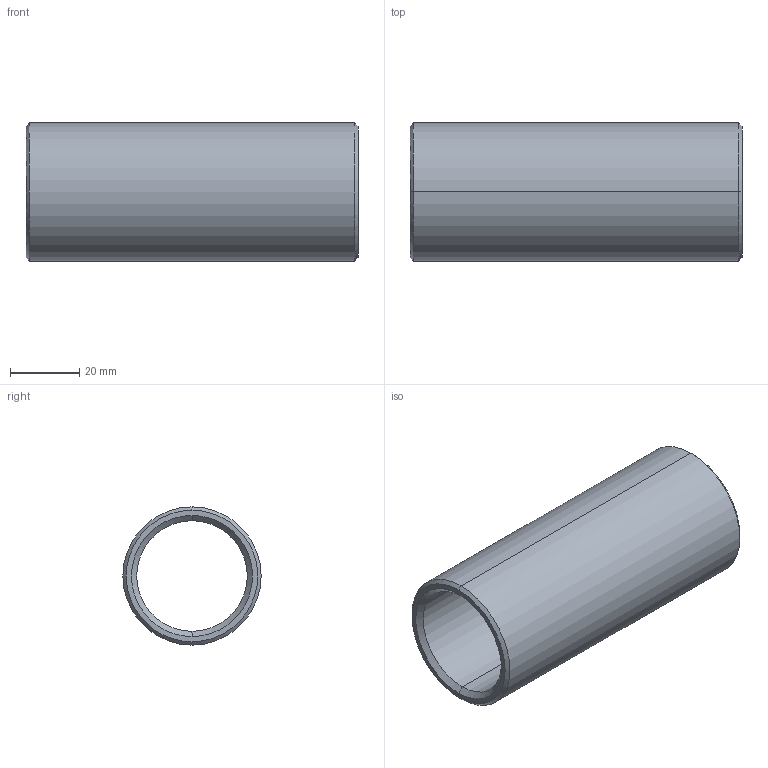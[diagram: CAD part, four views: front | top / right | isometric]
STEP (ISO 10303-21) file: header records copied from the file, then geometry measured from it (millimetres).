
FILE_DESCRIPTION(('CATIA V5 STEP Exchange'),'2;1');
FILE_NAME('C:\Users\Utente\Desktop\IO LAVORO\3D X SITO CF\X SITO\PLASTICA\352\352-32X96.stp','2021-04-14T14:58:15+00:00',('none'),('none'),'CATIA Version 5 Release 20 GA (IN-10)','CATIA V5 STEP AP203','none');
FILE_SCHEMA(('CONFIG_CONTROL_DESIGN'));
Length unit declared in the file: millimetre
Products named in the file (1): 352-32X96
Bounding box: 96 x 40 x 40 mm (x, y, z)
Volume: 43167.3 mm3; surface area: 22341.5 mm2
Topology: 1 solids, 1 shells, 14 faces, 44 edges, 32 vertices
Faces by surface type: cone 6, cylinder 4, plane 2, torus 2
Entity records: 634 total; most frequent: CARTESIAN_POINT 203, ORIENTED_EDGE 88, DIRECTION 64, EDGE_CURVE 44, AXIS2_PLACEMENT_3D 41, VERTEX_POINT 32, CIRCLE 26, EDGE_LOOP 16
